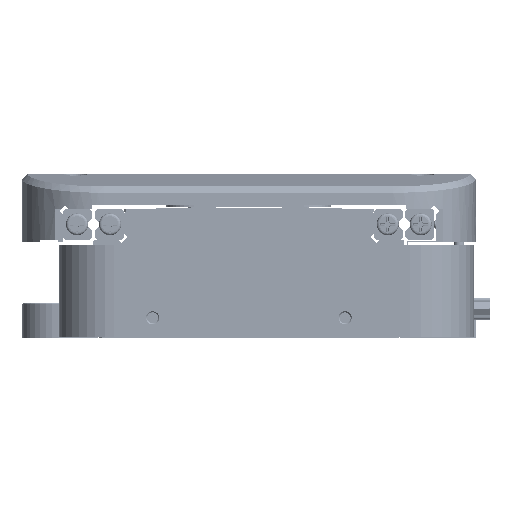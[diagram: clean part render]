
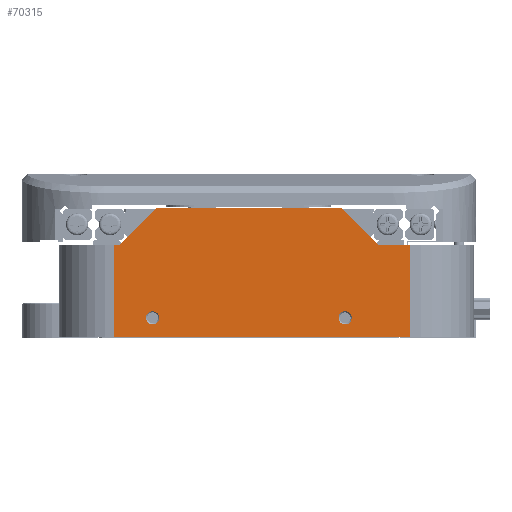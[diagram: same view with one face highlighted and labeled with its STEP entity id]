
A CAD part, left-side view. The second image highlights one B-rep face of the part: STEP entity #70315.
In plain terms, the highlighted planar face has unit normal (-1, 0, 0).
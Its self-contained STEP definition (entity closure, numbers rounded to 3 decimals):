
#1553=LINE($,#105827,#8155);
#1598=LINE($,#105947,#8200);
#1599=LINE($,#105952,#8201);
#1604=LINE($,#105960,#8206);
#1605=LINE($,#105961,#8207);
#1606=LINE($,#105962,#8208);
#1607=LINE($,#105964,#8209);
#1608=LINE($,#105965,#8210);
#8155=VECTOR($,#84637,107.5);
#8200=VECTOR($,#84738,11.5);
#8201=VECTOR($,#84743,19.092);
#8206=VECTOR($,#84750,2.);
#8207=VECTOR($,#84751,33.5);
#8208=VECTOR($,#84752,33.5);
#8209=VECTOR($,#84753,19.092);
#8210=VECTOR($,#84754,67.);
#19989=FACE_BOUND($,#22741,.T.);
#19990=FACE_BOUND($,#22742,.T.);
#19991=FACE_BOUND($,#22743,.T.);
#22741=EDGE_LOOP($,(#49990));
#22742=EDGE_LOOP($,(#49991));
#22743=EDGE_LOOP($,(#49992,#49993,#49994,#49995,#49996,#49997,#49998,#49999));
#28645=CIRCLE($,#75417,2.4);
#28646=CIRCLE($,#75419,2.4);
#31832=VERTEX_POINT($,#105761);
#31833=VERTEX_POINT($,#105764);
#31856=VERTEX_POINT($,#105824);
#31857=VERTEX_POINT($,#105826);
#31903=VERTEX_POINT($,#105944);
#31904=VERTEX_POINT($,#105946);
#31905=VERTEX_POINT($,#105950);
#31906=VERTEX_POINT($,#105951);
#31908=VERTEX_POINT($,#105959);
#31909=VERTEX_POINT($,#105963);
#39075=EDGE_CURVE($,#31832,#31832,#28645,.T.);
#39076=EDGE_CURVE($,#31833,#31833,#28646,.T.);
#39104=EDGE_CURVE($,#31857,#31856,#1553,.T.);
#39165=EDGE_CURVE($,#31904,#31903,#1598,.T.);
#39167=EDGE_CURVE($,#31905,#31906,#1599,.T.);
#39172=EDGE_CURVE($,#31905,#31908,#1604,.T.);
#39173=EDGE_CURVE($,#31857,#31908,#1605,.T.);
#39174=EDGE_CURVE($,#31904,#31856,#1606,.T.);
#39175=EDGE_CURVE($,#31909,#31903,#1607,.T.);
#39176=EDGE_CURVE($,#31906,#31909,#1608,.T.);
#49990=ORIENTED_EDGE($,*,*,#39075,.T.);
#49991=ORIENTED_EDGE($,*,*,#39076,.T.);
#49992=ORIENTED_EDGE($,*,*,#39167,.F.);
#49993=ORIENTED_EDGE($,*,*,#39172,.T.);
#49994=ORIENTED_EDGE($,*,*,#39173,.F.);
#49995=ORIENTED_EDGE($,*,*,#39104,.T.);
#49996=ORIENTED_EDGE($,*,*,#39174,.F.);
#49997=ORIENTED_EDGE($,*,*,#39165,.T.);
#49998=ORIENTED_EDGE($,*,*,#39175,.F.);
#49999=ORIENTED_EDGE($,*,*,#39176,.F.);
#67147=PLANE($,#75468);
#70315=ADVANCED_FACE($,(#19989,#19990,#19991),#67147,.T.);
#75417=AXIS2_PLACEMENT_3D($,#105762,#84576,#84577);
#75419=AXIS2_PLACEMENT_3D($,#105765,#84580,#84581);
#75468=AXIS2_PLACEMENT_3D($,#105958,#84748,#84749);
#84576=DIRECTION('center_axis',(1.,0.,0.));
#84577=DIRECTION('ref_axis',(0.,0.,
1.));
#84580=DIRECTION('center_axis',(1.,0.,0.));
#84581=DIRECTION('ref_axis',(0.,0.,
1.));
#84637=DIRECTION($,(0.,-1.,0.));
#84738=DIRECTION($,(0.,1.,0.));
#84743=DIRECTION($,(0.,-0.707,0.707));
#84748=DIRECTION('center_axis',(-1.,0.,0.));
#84749=DIRECTION('ref_axis',(0.,-1.,0.));
#84750=DIRECTION($,(0.,1.,0.));
#84751=DIRECTION($,(0.,0.,1.));
#84752=DIRECTION($,(0.,0.,-1.));
#84753=DIRECTION($,(0.,-0.707,-0.707));
#84754=DIRECTION($,(0.,-1.,0.));
#105761=CARTESIAN_POINT('',(-104.,-35.,9.9));
#105762=CARTESIAN_POINT('Origin',(-104.,-35.,7.5));
#105764=CARTESIAN_POINT('',(-104.,35.,9.9));
#105765=CARTESIAN_POINT('Origin',(-104.,35.,7.5));
#105824=CARTESIAN_POINT('',(-104.,-58.5,0.5));
#105826=CARTESIAN_POINT('',(-104.,49.,0.5));
#105827=CARTESIAN_POINT($,(-104.,69.,0.5));
#105944=CARTESIAN_POINT('',(-104.,-47.,34.));
#105946=CARTESIAN_POINT('',(-104.,-58.5,34.));
#105947=CARTESIAN_POINT($,(-104.,2.013,34.));
#105950=CARTESIAN_POINT('',(-104.,47.,34.));
#105951=CARTESIAN_POINT('',(-104.,33.5,47.5));
#105952=CARTESIAN_POINT($,(-104.,57.5,23.5));
#105958=CARTESIAN_POINT('Origin',(-104.,69.,0.5));
#105959=CARTESIAN_POINT('',(-104.,49.,34.));
#105960=CARTESIAN_POINT($,(-104.,66.987,34.));
#105961=CARTESIAN_POINT($,(-104.,49.,0.5));
#105962=CARTESIAN_POINT($,(-104.,-58.5,0.5));
#105963=CARTESIAN_POINT('',(-104.,-33.5,47.5));
#105964=CARTESIAN_POINT($,(-104.,-23.,58.));
#105965=CARTESIAN_POINT($,(-104.,69.,47.5));
